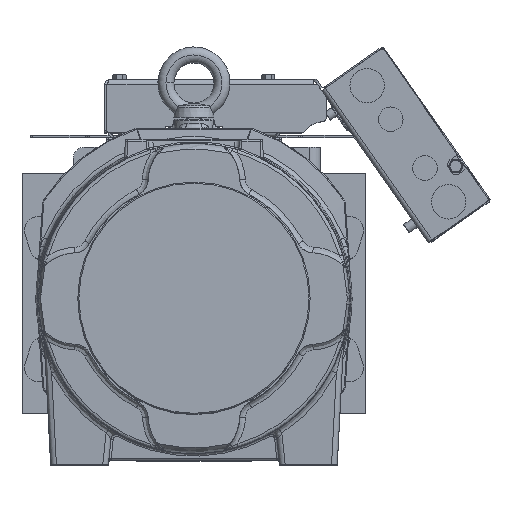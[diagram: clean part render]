
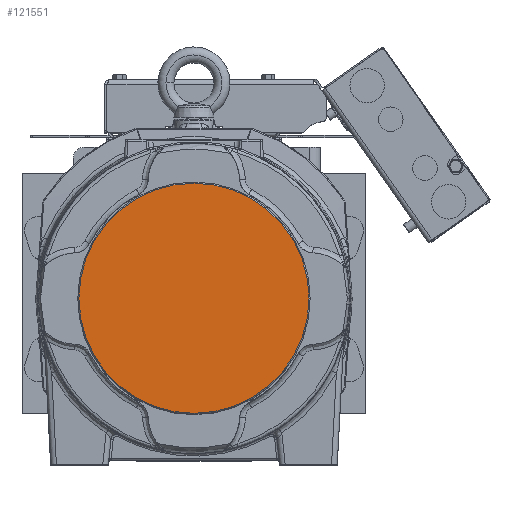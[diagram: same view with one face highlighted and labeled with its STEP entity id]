
A CAD part, top view. The second image highlights one B-rep face of the part: STEP entity #121551.
In plain terms, the highlighted planar face has unit normal (0, 0, 1).
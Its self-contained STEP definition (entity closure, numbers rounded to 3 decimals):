
#121460=CARTESIAN_POINT('',(0.,0.,
420.));
#121461=DIRECTION('',(0.,0.,1.));
#121462=DIRECTION('',(0.,-1.,0.));
#121463=AXIS2_PLACEMENT_3D('',#121460,#121461,#121462);
#121465=CARTESIAN_POINT('',(0.,0.,
420.));
#121466=DIRECTION('',(0.,0.,1.));
#121467=DIRECTION('',(0.,1.,0.));
#121468=AXIS2_PLACEMENT_3D('',#121465,#121466,#121467);
#121524=CARTESIAN_POINT('',(0.,-100.5,420.));
#121525=CARTESIAN_POINT('',(0.,100.5,420.));
#121526=VERTEX_POINT('',#121524);
#121527=VERTEX_POINT('',#121525);
#121540=CARTESIAN_POINT('',(0.,0.,
420.));
#121541=DIRECTION('',(0.,0.,1.));
#121542=DIRECTION('',(0.,1.,0.));
#121543=AXIS2_PLACEMENT_3D('',#121540,#121541,#121542);
#121544=PLANE('',#121543);
#121546=ORIENTED_EDGE('',*,*,#121545,.F.);
#121548=ORIENTED_EDGE('',*,*,#121547,.F.);
#121549=EDGE_LOOP('',(#121546,#121548));
#121550=FACE_OUTER_BOUND('',#121549,.F.);
#121551=ADVANCED_FACE('',(#121550),#121544,.T.);
#121464=CIRCLE('',#121463,100.5);
#121469=CIRCLE('',#121468,100.5);
#121545=EDGE_CURVE('',#121526,#121527,#121464,.T.);
#121547=EDGE_CURVE('',#121527,#121526,#121469,.T.);
